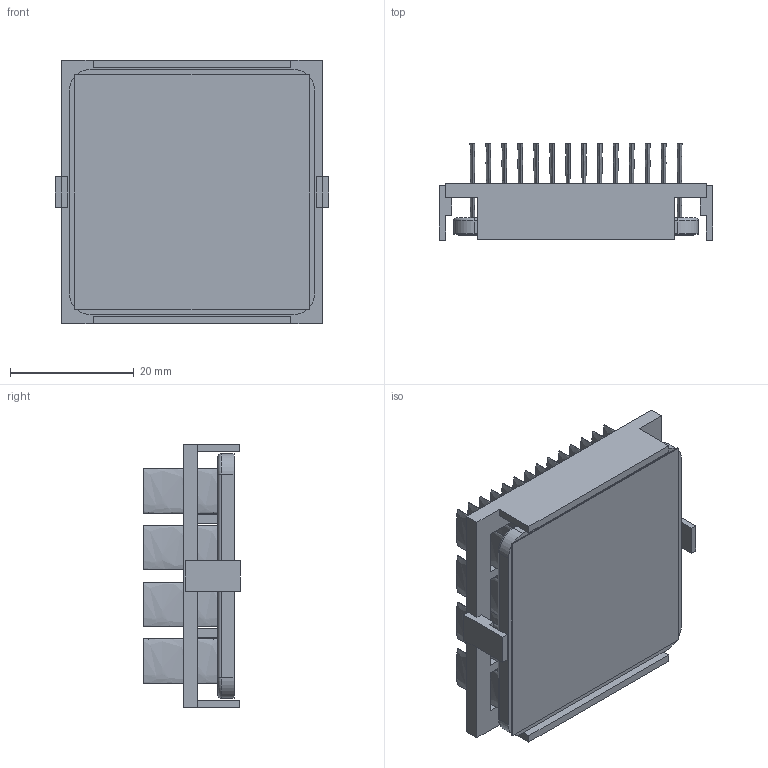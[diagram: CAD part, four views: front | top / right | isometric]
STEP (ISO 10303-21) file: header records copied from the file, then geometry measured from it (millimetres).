
FILE_DESCRIPTION (( 'STEP AP214' ), '1' );
FILE_NAME ('INM40001-15W-2.6O.STEP', '2023-02-21T17:38:25', ( '' ), ( '' ), 'SwSTEP 2.0', 'SolidWorks 2020', '' );
FILE_SCHEMA (( 'AUTOMOTIVE_DESIGN' ));
Length unit declared in the file: inch
Products named in the file (1): INM40001-15W-2.6O
Bounding box: 44.2 x 15.6 x 42.7 mm (x, y, z)
Volume: 9330.9 mm3; surface area: 19440.1 mm2
Topology: 3 solids, 3 shells, 250 faces, 556 edges, 368 vertices
Faces by surface type: plane 126, bspline 112, cylinder 8, torus 4
Entity records: 10428 total; most frequent: CARTESIAN_POINT 2631, ORIENTED_EDGE 1112, DIRECTION 630, EDGE_CURVE 556, VERTEX_POINT 368, VECTOR 312, LINE 312, EDGE_LOOP 308
